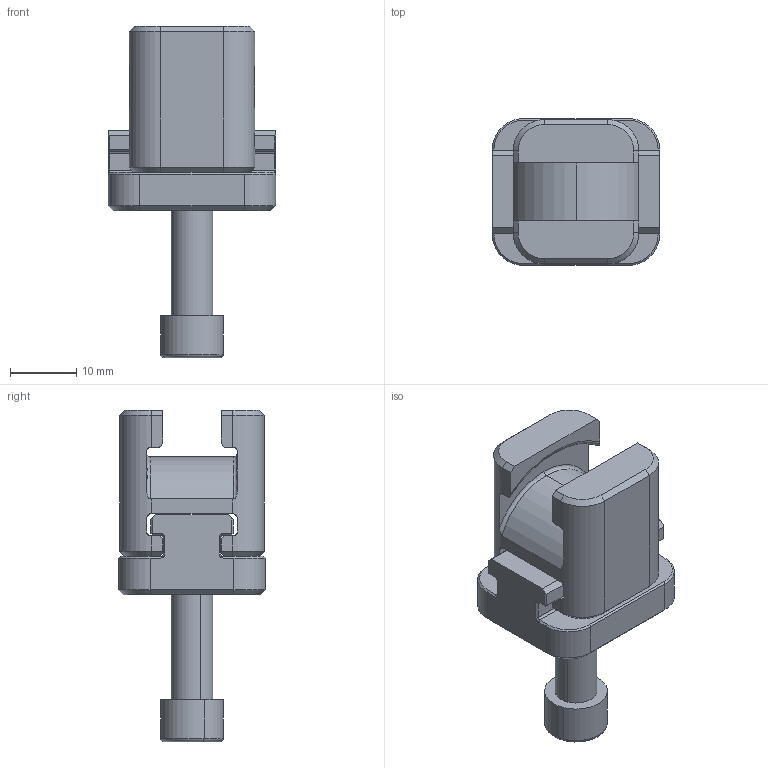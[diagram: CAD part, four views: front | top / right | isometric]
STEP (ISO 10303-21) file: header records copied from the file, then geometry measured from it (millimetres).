
FILE_DESCRIPTION (( 'STEP AP203' ), '1' );
FILE_NAME ('UCU87-TGU25.STEP', '2013-06-11T17:58:55', ( '' ), ( '' ), 'SwSTEP 2.0', 'SolidWorks 2011', '' );
FILE_SCHEMA (( 'CONFIG_CONTROL_DESIGN' ));
Length unit declared in the file: inch
Products named in the file (4): UCU87-TGU25; 250_SHCS; TGU25; UCU87
Assembly tree (3 placements, depth 2):
  UCU87-TGU25
    250_SHCS
    TGU25
    UCU87
Bounding box: 25.37 x 22.23 x 50.14 mm (x, y, z)
Volume: 11063.5 mm3; surface area: 6053.9 mm2
Topology: 3 solids, 3 shells, 170 faces, 411 edges, 249 vertices
Faces by surface type: plane 103, cone 28, cylinder 28, torus 11
Entity records: 5401 total; most frequent: CARTESIAN_POINT 1012, DIRECTION 835, ORIENTED_EDGE 822, EDGE_CURVE 411, VECTOR 283, LINE 283, AXIS2_PLACEMENT_3D 276, VERTEX_POINT 249
